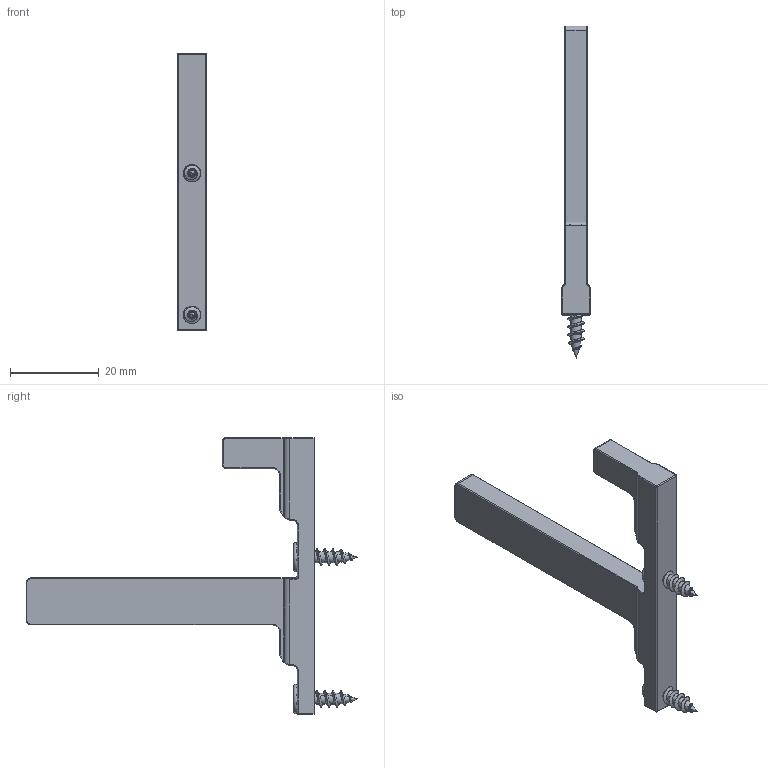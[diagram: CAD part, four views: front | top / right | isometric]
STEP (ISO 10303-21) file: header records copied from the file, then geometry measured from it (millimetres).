
FILE_DESCRIPTION (( 'STEP AP203' ), '1' );
FILE_NAME ('HT12011.STEP', '2020-12-23T06:56:35', ( 'Users' ), ( 'Microsoft' ), 'SwSTEP 2.0', 'SolidWorks 2018', '' );
FILE_SCHEMA (( 'CONFIG_CONTROL_DESIGN' ));
Length unit declared in the file: millimetre
Products named in the file (1): HT12011
Bounding box: 6.59 x 74.9 x 62.5 mm (x, y, z)
Volume: 6213.2 mm3; surface area: 3999.8 mm2
Topology: 1 solids, 1 shells, 269 faces, 681 edges, 408 vertices
Faces by surface type: cylinder 91, torus 58, plane 58, bspline 46, cone 8, sphere 8
Entity records: 11628 total; most frequent: CARTESIAN_POINT 5513, ORIENTED_EDGE 1342, DIRECTION 1195, EDGE_CURVE 671, AXIS2_PLACEMENT_3D 470, VERTEX_POINT 408, EDGE_LOOP 273, ADVANCED_FACE 269
